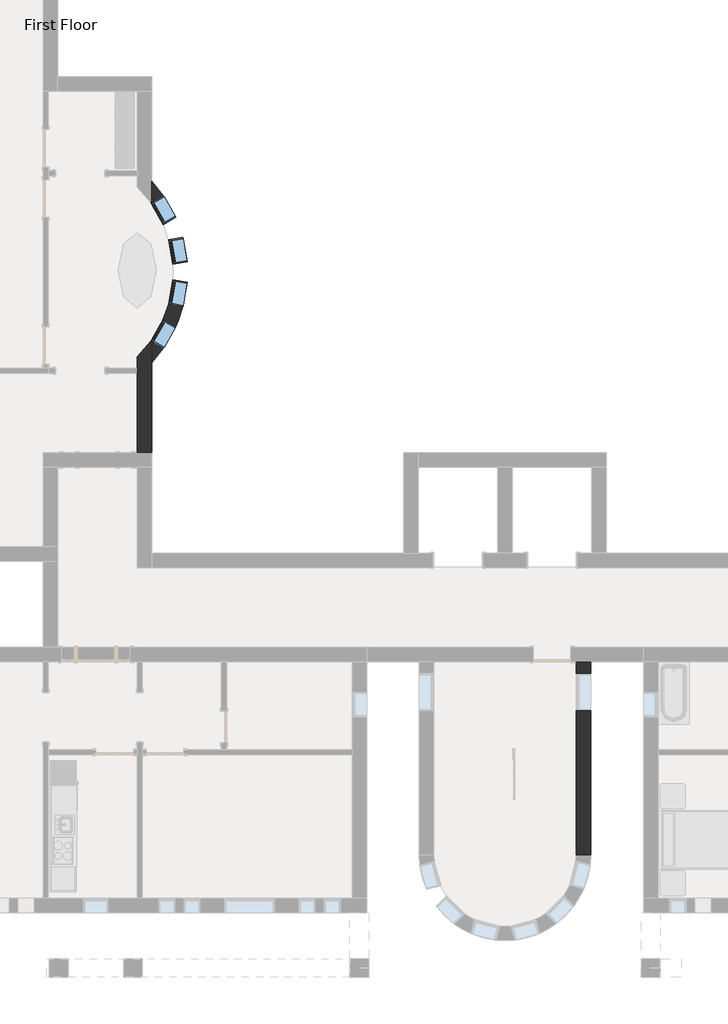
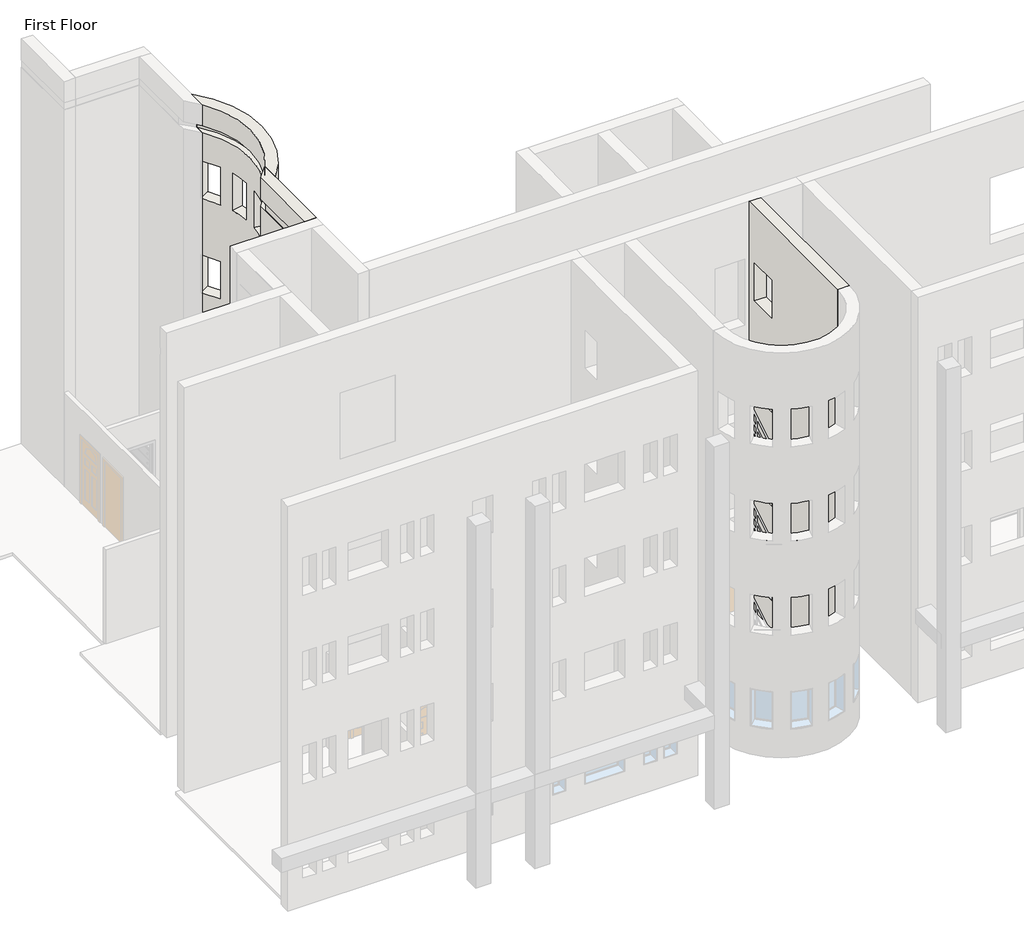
# One storey, part 5 of 24: 4 windows, 3 walls.
"""IFC4 building model written with IfcOpenShell, lengths in millimetres."""

from ifc_helpers import new_model, si_unit, frame, origin, place, context, project, spatial, polyline, circle_curve, outline, extrude, transform, mapped, element, save
from ifc_brep_helpers import plane_surface, cylinder_surface, revolved_surface, advanced_brep
from components import window_60baf983, window_ed80354a

model = new_model("IFC4")

# Units and contexts
model_context = context("Model", 3, world=origin())
ifc_project = project(units=[si_unit("LENGTHUNIT", "METRE", prefix="MILLI")], contexts=[model_context])

# Site, building, storey
site = spatial("IfcSite", under=ifc_project)
building = spatial("IfcBuilding", under=site)
storey = spatial("IfcBuildingStorey", under=building, Name="First Floor", Elevation=0.0)

# Walls
placement = place(None, origin())
element("IfcWall", 1, ObjectType="Exterior - Brick on Mtl. Stud", at=placement, inside=storey, context=model_context, shape_type="SweptSolid", body=[
    extrude(outline(polyline([(-28134.7808133, 0.0), (-32835.3683133, 0.0), (-32835.3683133, 13106.4), (-28134.7808133, 13106.4), (-28134.7808133, 0.0)]), holes=[polyline([(-29330.1683133, 2133.6), (-29330.1683133, 914.4), (-28415.7683133, 914.4), (-28415.7683133, 2133.6), (-29330.1683133, 2133.6)]), polyline([(-29330.1683133, 11277.6), (-29330.1683133, 10058.4), (-28415.7683133, 10058.4), (-28415.7683133, 11277.6), (-29330.1683133, 11277.6)]), polyline([(-29330.1683133, 5181.6), (-29330.1683133, 3962.4), (-28415.7683133, 3962.4), (-28415.7683133, 5181.6), (-29330.1683133, 5181.6)]), polyline([(-29330.1683133, 8229.6), (-29330.1683133, 7010.4), (-28415.7683133, 7010.4), (-28415.7683133, 8229.6), (-29330.1683133, 8229.6)])]), frame((-13206.3839563, 0.0, 0.0), z_axis=(1.0, 0.0, 0.0), x_axis=(0.0, 1.0, 0.0)), (0.0, 0.0, 1.0), 352.425),
])
element("IfcWall", 2, ObjectType="Exterior - Brick on Mtl. Stud", at=placement, inside=storey, context=model_context, shape_type="AdvancedBrep", body=[
    advanced_brep(
    [(-23521.9589563, -23057.9558133, 0.0), (-23521.9589563, -20866.5535473, 0.0), (-23521.9589563, -20308.6589631, 0.0), (-23521.9589563, -20308.6589631, 914.4), (-23521.9589563, -20357.947211, 914.4), (-23521.9589563, -20357.947211, 2133.6), (-23521.9589563, -20308.6589631, 2133.6), (-23521.9589563, -20308.6589631, 3962.4), (-23521.9589563, -20357.947211, 3962.4), (-23521.9589563, -20357.947211, 5181.6), (-23521.9589563, -20308.6589631, 5181.6), (-23521.9589563, -20308.6589631, 7010.4), (-23521.9589563, -20357.947211, 7010.4), (-23521.9589563, -20357.947211, 8229.6), (-23521.9589563, -20308.6589631, 8229.6), (-23521.9589563, -20308.6589631, 10058.4), (-23521.9589563, -20357.947211, 10058.4), (-23521.9589563, -20357.947211, 11277.6), (-23521.9589563, -20308.6589631, 11277.6), (-23521.9589563, -20308.6589631, 12192.0), (-23521.9589563, -20617.1458841, 12192.0), (-23521.9589563, -20617.1458841, 12420.6), (-23521.9589563, -20308.6589631, 12420.6), (-23521.9589563, -20308.6589631, 13106.4), (-23521.9589563, -20866.5535473, 13106.4), (-23521.9589563, -23057.9558133, 13106.4), (-23874.3839563, -20722.552661, 0.0), (-23874.3839563, -20997.3808133, 0.0), (-23874.3839563, -21124.3808133, 0.0), (-23874.3839563, -23057.9558133, 0.0), (-23874.3839563, -23057.9558133, 12192.0), (-23874.3839563, -21124.3808133, 12192.0), (-23874.3839563, -20997.3808133, 12192.0), (-23874.3839563, -20722.552661, 12192.0), (-23874.3839563, -23057.9558133, 13106.4), (-23874.3839563, -20722.552661, 13106.4), (-23874.3839563, -20722.552661, 12420.6), (-23874.3839563, -23057.9558133, 12420.6), (-23527.428547, -20316.4477821, 11277.6), (-23527.428547, -20316.4477821, 10058.4), (-23527.428547, -20316.4477821, 8229.6), (-23527.428547, -20316.4477821, 7010.4), (-23527.428547, -20316.4477821, 5181.6), (-23527.428547, -20316.4477821, 3962.4), (-23527.428547, -20316.4477821, 2133.6), (-23527.428547, -20316.4477821, 914.4), (-23861.6839563, -23057.9558133, 12420.6), (-23861.6839563, -23057.9558133, 12192.0), (-23543.9598455, -20345.3735215, 2133.6), (-23543.9598455, -20345.3735215, 914.4), (-23543.9598455, -20345.3735215, 11277.6), (-23543.9598455, -20345.3735215, 10058.4), (-23543.9598455, -20345.3735215, 5181.6), (-23543.9598455, -20345.3735215, 3962.4), (-23543.9598455, -20345.3735215, 8229.6), (-23543.9598455, -20345.3735215, 7010.4), (-23861.6839563, -20965.4736866, 12192.0), (-23861.6839563, -20965.4736866, 12420.6)],
    [
        (0, 1),
        (1, 2),
        (2, 3),
        (3, 4),
        (4, 5),
        (5, 6),
        (6, 7),
        (7, 8),
        (8, 9),
        (9, 10),
        (10, 11),
        (11, 12),
        (12, 13),
        (13, 14),
        (14, 15),
        (15, 16),
        (16, 17),
        (17, 18),
        (18, 19),
        (19, 20),
        (20, 21),
        (21, 22),
        (22, 23),
        (23, 24),
        (24, 25),
        (25, 0),
        (26, 27),
        (27, 28),
        (28, 29),
        (29, 30),
        (30, 31),
        (31, 32),
        (32, 33),
        (33, 26),
        (34, 35),
        (35, 36),
        (36, 37),
        (37, 34),
        (0, 29),
        (26, 2, circle_curve(frame((-25874.8788413, -18662.1683133, 0.0), z_axis=(0.0, 0.0, 1.0), x_axis=(0.0, -1.0, 0.0)), 2871.7875)),
        (23, 35, circle_curve(frame((-25874.8788413, -18662.1683133, 13106.4), z_axis=(0.0, 0.0, -1.0), x_axis=(0.0, -1.0, 0.0)), 2871.7875)),
        (34, 25),
        (33, 19, circle_curve(frame((-25874.8788413, -18662.1683133, 12192.0), z_axis=(0.0, 0.0, 1.0), x_axis=(0.0, -1.0, 0.0)), 2871.7875)),
        (18, 38, circle_curve(frame((-25874.8788413, -18662.1683133, 11277.6), z_axis=(0.0, 0.0, -1.0), x_axis=(0.0, -1.0, 0.0)), 2871.7875)),
        (38, 39),
        (39, 15, circle_curve(frame((-25874.8788413, -18662.1683133, 10058.4), z_axis=(0.0, 0.0, 1.0), x_axis=(0.0, -1.0, 0.0)), 2871.7875)),
        (14, 40, circle_curve(frame((-25874.8788413, -18662.1683133, 8229.6), z_axis=(0.0, 0.0, -1.0), x_axis=(0.0, -1.0, 0.0)), 2871.7875)),
        (40, 41),
        (41, 11, circle_curve(frame((-25874.8788413, -18662.1683133, 7010.4), z_axis=(0.0, 0.0, 1.0), x_axis=(0.0, -1.0, 0.0)), 2871.7875)),
        (10, 42, circle_curve(frame((-25874.8788413, -18662.1683133, 5181.6), z_axis=(0.0, 0.0, -1.0), x_axis=(0.0, -1.0, 0.0)), 2871.7875)),
        (42, 43),
        (43, 7, circle_curve(frame((-25874.8788413, -18662.1683133, 3962.4), z_axis=(0.0, 0.0, 1.0), x_axis=(0.0, -1.0, 0.0)), 2871.7875)),
        (6, 44, circle_curve(frame((-25874.8788413, -18662.1683133, 2133.6), z_axis=(0.0, 0.0, -1.0), x_axis=(0.0, -1.0, 0.0)), 2871.7875)),
        (44, 45),
        (45, 3, circle_curve(frame((-25874.8788413, -18662.1683133, 914.4), z_axis=(0.0, 0.0, 1.0), x_axis=(0.0, -1.0, 0.0)), 2871.7875)),
        (22, 36, circle_curve(frame((-25874.8788413, -18662.1683133, 12420.6), z_axis=(0.0, 0.0, -1.0), x_axis=(0.0, -1.0, 0.0)), 2871.7875)),
        (37, 46),
        (46, 47),
        (47, 30),
        (48, 49),
        (49, 45),
        (44, 48),
        (49, 4),
        (48, 5),
        (50, 51),
        (51, 39),
        (38, 50),
        (51, 16),
        (50, 17),
        (52, 53),
        (53, 43),
        (42, 52),
        (53, 8),
        (52, 9),
        (54, 55),
        (55, 41),
        (40, 54),
        (55, 12),
        (54, 13),
        (47, 56),
        (56, 20, circle_curve(frame((-25874.8788413, -18662.1683133, 12192.0), z_axis=(0.0, 0.0, 1.0), x_axis=(0.0, -1.0, 0.0)), 3059.1125)),
        (21, 57, circle_curve(frame((-25874.8788413, -18662.1683133, 12420.6), z_axis=(0.0, 0.0, -1.0), x_axis=(0.0, -1.0, 0.0)), 3059.1125)),
        (57, 46),
        (57, 56),
    ],
    [
        plane_surface(frame((-23521.9589563, -23234.1683133, 0.0), z_axis=(1.0, 0.0, 0.0), x_axis=(0.0, 1.0, 0.0))),
        plane_surface(frame((-23874.3839563, -23234.1683133, 0.0), z_axis=(-1.0, 0.0, 0.0), x_axis=(0.0, -1.0, 0.0))),
        plane_surface(frame((-23521.9589563, -23234.1683133, 0.0), z_axis=(0.0, 0.0, -1.0), x_axis=(-1.0, 0.0, 0.0))),
        plane_surface(frame((-23521.9589563, -20795.7683133, 13106.4), z_axis=(0.0, 0.0, 1.0), x_axis=(-1.0, 0.0, 0.0))),
        revolved_surface(polyline([(-25874.8788413, -21533.9558133, 0.0), (-25874.8788413, -21533.9558133, 12192.0)]), (-25874.8788413, -18662.1683133, 0.0), (0.0, 0.0, -1.0)),
        revolved_surface(polyline([(-25874.8788413, -21533.9558133, 12420.6), (-25874.8788413, -21533.9558133, 13106.4)]), (-25874.8788413, -18662.1683133, 0.0), (0.0, 0.0, -1.0)),
        plane_surface(frame((-25984.1714563, -23057.9558133, 0.0), z_axis=(0.0, -1.0, 0.0), x_axis=(-1.0, 0.0, 0.0))),
        plane_surface(frame((-23241.4817613, -19816.1106675, 2133.6), z_axis=(0.8682133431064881, -0.49619108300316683, 0.0), x_axis=(0.0, 0.0, -1.0))),
        plane_surface(frame((-23241.4817613, -19816.1106675, 914.4), z_axis=(0.0, 0.0, 1.0), x_axis=(0.8682133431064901, -0.49619108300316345, 0.0))),
        plane_surface(frame((-23543.9598455, -20345.3735215, 914.4), z_axis=(0.49619108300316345, 0.8682133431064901, 0.0), x_axis=(0.8682133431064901, -0.49619108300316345, 0.0))),
        plane_surface(frame((-23543.9598455, -20345.3735215, 2133.6), z_axis=(0.0, 0.0, -1.0), x_axis=(0.8682133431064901, -0.49619108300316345, 0.0))),
        plane_surface(frame((-23241.4817613, -19816.1106675, 11277.6), z_axis=(0.8682133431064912, -0.4961910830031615, 0.0), x_axis=(0.0, 0.0, -1.0))),
        plane_surface(frame((-23241.4817613, -19816.1106675, 10058.4), z_axis=(0.0, 0.0, 1.0), x_axis=(0.8682133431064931, -0.4961910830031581, 0.0))),
        plane_surface(frame((-23543.9598455, -20345.3735215, 10058.4), z_axis=(0.4961910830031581, 0.8682133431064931, 0.0), x_axis=(0.8682133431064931, -0.4961910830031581, 0.0))),
        plane_surface(frame((-23543.9598455, -20345.3735215, 11277.6), z_axis=(0.0, 0.0, -1.0), x_axis=(0.8682133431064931, -0.4961910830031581, 0.0))),
        plane_surface(frame((-23241.4817613, -19816.1106675, 5181.6), z_axis=(0.8682133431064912, -0.4961910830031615, 0.0), x_axis=(0.0, 0.0, -1.0))),
        plane_surface(frame((-23241.4817613, -19816.1106675, 3962.4), z_axis=(0.0, 0.0, 1.0), x_axis=(0.8682133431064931, -0.4961910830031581, 0.0))),
        plane_surface(frame((-23543.9598455, -20345.3735215, 3962.4), z_axis=(0.4961910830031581, 0.8682133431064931, 0.0), x_axis=(0.8682133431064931, -0.4961910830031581, 0.0))),
        plane_surface(frame((-23543.9598455, -20345.3735215, 5181.6), z_axis=(0.0, 0.0, -1.0), x_axis=(0.8682133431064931, -0.4961910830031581, 0.0))),
        plane_surface(frame((-23241.4817613, -19816.1106675, 8229.6), z_axis=(0.8682133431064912, -0.4961910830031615, 0.0), x_axis=(0.0, 0.0, -1.0))),
        plane_surface(frame((-23241.4817613, -19816.1106675, 7010.4), z_axis=(0.0, 0.0, 1.0), x_axis=(0.8682133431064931, -0.4961910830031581, 0.0))),
        plane_surface(frame((-23543.9598455, -20345.3735215, 7010.4), z_axis=(0.4961910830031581, 0.8682133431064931, 0.0), x_axis=(0.8682133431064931, -0.4961910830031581, 0.0))),
        plane_surface(frame((-23543.9598455, -20345.3735215, 8229.6), z_axis=(0.0, 0.0, -1.0), x_axis=(0.8682133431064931, -0.4961910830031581, 0.0))),
        plane_surface(frame((-29630.6589563, -11967.6808133, 12192.0), z_axis=(0.0, 0.0, 1.0), x_axis=(1.0, 0.0, 0.0))),
        plane_surface(frame((-29630.6589563, -11967.6808133, 12420.6), z_axis=(0.0, 0.0, -1.0), x_axis=(1.0, 0.0, 0.0))),
        plane_surface(frame((-23861.6839563, -23070.6558133, 12192.0), z_axis=(-1.0, 0.0, 0.0), x_axis=(0.0, 1.0, 0.0))),
        revolved_surface(polyline([(-25874.8788413, -21721.2808133, 12420.6), (-25874.8788413, -21721.2808133, 12192.0)]), (-25874.8788413, -18662.1683133, 12192.0), (0.0, 0.0, 1.0)),
    ],
    [
        (0, [[1, 2, 3, 4, 5, 6, 7, 8, 9, 10, 11, 12, 13, 14, 15, 16, 17, 18, 19, 20, 21, 22, 23, 24, 25, 26]]),
        (1, [[27, 28, 29, 30, 31, 32, 33, 34]]),
        (1, [[35, 36, 37, 38]]),
        (2, [[-2, -1, 39, -29, -28, -27, 40]]),
        (3, [[-25, -24, 41, -35, 42]]),
        (4, [[-40, -34, 43, -19, 44, 45, 46, -15, 47, 48, 49, -11, 50, 51, 52, -7, 53, 54, 55, -3]]),
        (5, [[-41, -23, 56, -36]]),
        (6, [[-26, -42, -38, 57, 58, 59, -30, -39]]),
        (7, [[60, 61, -54, 62]]),
        (8, [[63, -4, -55, -61]]),
        (9, [[-60, 64, -5, -63]]),
        (10, [[-64, -62, -53, -6]]),
        (11, [[65, 66, -45, 67]]),
        (12, [[68, -16, -46, -66]]),
        (13, [[-65, 69, -17, -68]]),
        (14, [[-69, -67, -44, -18]]),
        (15, [[70, 71, -51, 72]]),
        (16, [[73, -8, -52, -71]]),
        (17, [[-70, 74, -9, -73]]),
        (18, [[-74, -72, -50, -10]]),
        (19, [[75, 76, -48, 77]]),
        (20, [[78, -12, -49, -76]]),
        (21, [[-75, 79, -13, -78]]),
        (22, [[-79, -77, -47, -14]]),
        (23, [[80, 81, -20, -43, -33, -32, -31, -59]]),
        (24, [[82, 83, -57, -37, -56, -22]]),
        (25, [[84, -80, -58, -83]]),
        (26, [[-84, -82, -21, -81]]),
    ],
),
])
element("IfcWall", 3, ObjectType="Exterior - Brick on Mtl. Stud", at=placement, inside=storey, context=model_context, shape_type="AdvancedBrep", body=[
    advanced_brep(
    [(-23521.9589563, -20866.5535473, 13106.4), (-23521.9589563, -16457.7830793, 13106.4), (-23521.9589563, -17015.6776635, 13106.4), (-23521.9589563, -20308.6589631, 13106.4), (-23521.9589563, -16457.7830793, 0.0), (-23521.9589563, -20866.5535473, 0.0), (-23521.9589563, -20308.6589631, 0.0), (-23521.9589563, -17015.6776635, 0.0), (-22936.8719855, -17334.1389611, 914.4), (-22936.8719855, -17334.1389611, 2133.6), (-23239.3500697, -16804.8761071, 2133.6), (-23239.3500697, -16804.8761071, 914.4), (-22936.8719855, -19990.1976656, 2133.6), (-22936.8719855, -19990.1976656, 914.4), (-23239.3500697, -20519.4605195, 914.4), (-23239.3500697, -20519.4605195, 2133.6), (-22936.8719855, -17334.1389611, 10058.4), (-22936.8719855, -17334.1389611, 11277.6), (-23239.3500697, -16804.8761071, 11277.6), (-23239.3500697, -16804.8761071, 10058.4), (-22936.8719855, -19990.1976656, 11277.6), (-22936.8719855, -19990.1976656, 10058.4), (-23239.3500697, -20519.4605195, 10058.4), (-23239.3500697, -20519.4605195, 11277.6), (-22936.8719855, -17334.1389611, 3962.4), (-22936.8719855, -17334.1389611, 5181.6), (-23239.3500697, -16804.8761071, 5181.6), (-23239.3500697, -16804.8761071, 3962.4), (-22936.8719855, -19990.1976656, 5181.6), (-22936.8719855, -19990.1976656, 3962.4), (-23239.3500697, -20519.4605195, 3962.4), (-23239.3500697, -20519.4605195, 5181.6), (-22936.8719855, -17334.1389611, 7010.4), (-22936.8719855, -17334.1389611, 8229.6), (-23239.3500697, -16804.8761071, 8229.6), (-23239.3500697, -16804.8761071, 7010.4), (-22936.8719855, -19990.1976656, 8229.6), (-22936.8719855, -19990.1976656, 7010.4), (-23239.3500697, -20519.4605195, 7010.4), (-23239.3500697, -20519.4605195, 8229.6), (-22659.9445035, -18906.5930431, 8229.6), (-22659.9445035, -18906.5930431, 7010.4), (-22763.4133094, -19507.3478734, 7010.4), (-22763.4133094, -19507.3478734, 8229.6), (-22659.9445035, -18417.7435836, 7010.4), (-22659.9445035, -18417.7435836, 8229.6), (-22763.4133094, -17816.9887532, 8229.6), (-22763.4133094, -17816.9887532, 7010.4), (-22659.9445035, -18906.5930431, 5181.6), (-22659.9445035, -18906.5930431, 3962.4), (-22763.4133094, -19507.3478734, 3962.4), (-22763.4133094, -19507.3478734, 5181.6), (-22659.9445035, -18417.7435836, 3962.4), (-22659.9445035, -18417.7435836, 5181.6), (-22763.4133094, -17816.9887532, 5181.6), (-22763.4133094, -17816.9887532, 3962.4), (-22659.9445035, -18906.5930431, 11277.6), (-22659.9445035, -18906.5930431, 10058.4), (-22763.4133094, -19507.3478734, 10058.4), (-22763.4133094, -19507.3478734, 11277.6), (-22659.9445035, -18417.7435836, 10058.4), (-22659.9445035, -18417.7435836, 11277.6), (-22763.4133094, -17816.9887532, 11277.6), (-22763.4133094, -17816.9887532, 10058.4), (-22659.9445035, -18906.5930431, 2133.6), (-22659.9445035, -18906.5930431, 914.4), (-22763.4133094, -19507.3478734, 914.4), (-22763.4133094, -19507.3478734, 2133.6), (-22659.9445035, -18417.7435836, 914.4), (-22659.9445035, -18417.7435836, 2133.6), (-22763.4133094, -17816.9887532, 2133.6), (-22763.4133094, -17816.9887532, 914.4), (-23521.9589563, -17015.6776635, 12420.6), (-23521.9589563, -20308.6589631, 12420.6), (-23521.9589563, -20308.6589631, 914.4), (-23244.3988057, -19814.4435526, 914.4), (-23244.3988057, -19814.4435526, 2133.6), (-23521.9589563, -20308.6589631, 2133.6), (-23521.9589563, -20308.6589631, 3962.4), (-23244.3988057, -19814.4435526, 3962.4), (-23244.3988057, -19814.4435526, 5181.6), (-23521.9589563, -20308.6589631, 5181.6), (-23521.9589563, -20308.6589631, 7010.4), (-23244.3988057, -19814.4435526, 7010.4), (-23244.3988057, -19814.4435526, 8229.6), (-23521.9589563, -20308.6589631, 8229.6), (-23521.9589563, -20308.6589631, 10058.4), (-23244.3988057, -19814.4435526, 10058.4), (-23244.3988057, -19814.4435526, 11277.6), (-23521.9589563, -20308.6589631, 11277.6), (-23521.9589563, -20308.6589631, 12192.0), (-23521.9589563, -17015.6776635, 12192.0), (-23521.9589563, -17015.6776635, 11277.6), (-23244.3988057, -17509.893074, 11277.6), (-23244.3988057, -17509.893074, 10058.4), (-23521.9589563, -17015.6776635, 10058.4), (-23521.9589563, -17015.6776635, 8229.6), (-23244.3988057, -17509.893074, 8229.6), (-23244.3988057, -17509.893074, 7010.4), (-23521.9589563, -17015.6776635, 7010.4), (-23521.9589563, -17015.6776635, 5181.6), (-23244.3988057, -17509.893074, 5181.6), (-23244.3988057, -17509.893074, 3962.4), (-23521.9589563, -17015.6776635, 3962.4), (-23521.9589563, -17015.6776635, 2133.6), (-23244.3988057, -17509.893074, 2133.6), (-23244.3988057, -17509.893074, 914.4), (-23521.9589563, -17015.6776635, 914.4), (-23009.0115527, -18846.4727595, 7010.4), (-23009.0115527, -18846.4727595, 8229.6), (-23112.4803586, -19447.2275899, 8229.6), (-23112.4803586, -19447.2275899, 7010.4), (-23009.0115527, -18477.8638671, 8229.6), (-23009.0115527, -18477.8638671, 7010.4), (-23112.4803586, -17877.1090368, 7010.4), (-23112.4803586, -17877.1090368, 8229.6), (-23009.0115527, -18846.4727595, 3962.4), (-23009.0115527, -18846.4727595, 5181.6), (-23112.4803586, -19447.2275899, 5181.6), (-23112.4803586, -19447.2275899, 3962.4), (-23009.0115527, -18477.8638671, 5181.6), (-23009.0115527, -18477.8638671, 3962.4), (-23112.4803586, -17877.1090368, 3962.4), (-23112.4803586, -17877.1090368, 5181.6), (-23009.0115527, -18846.4727595, 10058.4), (-23009.0115527, -18846.4727595, 11277.6), (-23112.4803586, -19447.2275899, 11277.6), (-23112.4803586, -19447.2275899, 10058.4), (-23009.0115527, -18477.8638671, 11277.6), (-23009.0115527, -18477.8638671, 10058.4), (-23112.4803586, -17877.1090368, 10058.4), (-23112.4803586, -17877.1090368, 11277.6), (-23009.0115527, -18846.4727595, 914.4), (-23009.0115527, -18846.4727595, 2133.6), (-23112.4803586, -19447.2275899, 2133.6), (-23112.4803586, -19447.2275899, 914.4), (-23009.0115527, -18477.8638671, 2133.6), (-23009.0115527, -18477.8638671, 914.4), (-23112.4803586, -17877.1090368, 914.4), (-23112.4803586, -17877.1090368, 2133.6), (-23521.9589563, -20617.1458841, 12420.6), (-23521.9589563, -20617.1458841, 12192.0), (-23521.9589563, -20357.947211, 11277.6), (-23521.9589563, -20357.947211, 10058.4), (-23521.9589563, -20357.947211, 8229.6), (-23521.9589563, -20357.947211, 7010.4), (-23521.9589563, -20357.947211, 5181.6), (-23521.9589563, -20357.947211, 3962.4), (-23521.9589563, -20357.947211, 2133.6), (-23521.9589563, -20357.947211, 914.4), (-23521.9589563, -16966.3894156, 914.4), (-23521.9589563, -16966.3894156, 2133.6), (-23521.9589563, -16966.3894156, 3962.4), (-23521.9589563, -16966.3894156, 5181.6), (-23521.9589563, -16966.3894156, 7010.4), (-23521.9589563, -16966.3894156, 8229.6), (-23521.9589563, -16966.3894156, 10058.4), (-23521.9589563, -16966.3894156, 11277.6), (-23521.9589563, -16707.1907425, 12192.0), (-23521.9589563, -16707.1907425, 12420.6)],
    [
        (0, 1, circle_curve(frame((-25874.8788413, -18662.1683133, 13106.4), z_axis=(0.0, 0.0, 1.0), x_axis=(0.0, -1.0, 0.0)), 3224.2125)),
        (1, 2),
        (2, 3, circle_curve(frame((-25874.8788413, -18662.1683133, 13106.4), z_axis=(0.0, 0.0, -1.0), x_axis=(0.0, -1.0, 0.0)), 2871.7875)),
        (3, 0),
        (4, 5, circle_curve(frame((-25874.8788413, -18662.1683133, 0.0), z_axis=(0.0, 0.0, -1.0), x_axis=(0.0, -1.0, 0.0)), 3224.2125)),
        (5, 6),
        (6, 7, circle_curve(frame((-25874.8788413, -18662.1683133, 0.0), z_axis=(0.0, 0.0, 1.0), x_axis=(0.0, -1.0, 0.0)), 2871.7875)),
        (7, 4),
        (0, 5),
        (4, 1),
        (8, 9),
        (9, 10, circle_curve(frame((-25874.8788413, -18662.1683133, 2133.6), z_axis=(0.0, 0.0, 1.0), x_axis=(0.0, -1.0, 0.0)), 3224.2125)),
        (10, 11),
        (11, 8, circle_curve(frame((-25874.8788413, -18662.1683133, 914.4), z_axis=(0.0, 0.0, -1.0), x_axis=(0.0, -1.0, 0.0)), 3224.2125)),
        (12, 13),
        (13, 14, circle_curve(frame((-25874.8788413, -18662.1683133, 914.4), z_axis=(0.0, 0.0, -1.0), x_axis=(0.0, -1.0, 0.0)), 3224.2125)),
        (14, 15),
        (15, 12, circle_curve(frame((-25874.8788413, -18662.1683133, 2133.6), z_axis=(0.0, 0.0, 1.0), x_axis=(0.0, -1.0, 0.0)), 3224.2125)),
        (16, 17),
        (17, 18, circle_curve(frame((-25874.8788413, -18662.1683133, 11277.6), z_axis=(0.0, 0.0, 1.0), x_axis=(0.0, -1.0, 0.0)), 3224.2125)),
        (18, 19),
        (19, 16, circle_curve(frame((-25874.8788413, -18662.1683133, 10058.4), z_axis=(0.0, 0.0, -1.0), x_axis=(0.0, -1.0, 0.0)), 3224.2125)),
        (20, 21),
        (21, 22, circle_curve(frame((-25874.8788413, -18662.1683133, 10058.4), z_axis=(0.0, 0.0, -1.0), x_axis=(0.0, -1.0, 0.0)), 3224.2125)),
        (22, 23),
        (23, 20, circle_curve(frame((-25874.8788413, -18662.1683133, 11277.6), z_axis=(0.0, 0.0, 1.0), x_axis=(0.0, -1.0, 0.0)), 3224.2125)),
        (24, 25),
        (25, 26, circle_curve(frame((-25874.8788413, -18662.1683133, 5181.6), z_axis=(0.0, 0.0, 1.0), x_axis=(0.0, -1.0, 0.0)), 3224.2125)),
        (26, 27),
        (27, 24, circle_curve(frame((-25874.8788413, -18662.1683133, 3962.4), z_axis=(0.0, 0.0, -1.0), x_axis=(0.0, -1.0, 0.0)), 3224.2125)),
        (28, 29),
        (29, 30, circle_curve(frame((-25874.8788413, -18662.1683133, 3962.4), z_axis=(0.0, 0.0, -1.0), x_axis=(0.0, -1.0, 0.0)), 3224.2125)),
        (30, 31),
        (31, 28, circle_curve(frame((-25874.8788413, -18662.1683133, 5181.6), z_axis=(0.0, 0.0, 1.0), x_axis=(0.0, -1.0, 0.0)), 3224.2125)),
        (32, 33),
        (33, 34, circle_curve(frame((-25874.8788413, -18662.1683133, 8229.6), z_axis=(0.0, 0.0, 1.0), x_axis=(0.0, -1.0, 0.0)), 3224.2125)),
        (34, 35),
        (35, 32, circle_curve(frame((-25874.8788413, -18662.1683133, 7010.4), z_axis=(0.0, 0.0, -1.0), x_axis=(0.0, -1.0, 0.0)), 3224.2125)),
        (36, 37),
        (37, 38, circle_curve(frame((-25874.8788413, -18662.1683133, 7010.4), z_axis=(0.0, 0.0, -1.0), x_axis=(0.0, -1.0, 0.0)), 3224.2125)),
        (38, 39),
        (39, 36, circle_curve(frame((-25874.8788413, -18662.1683133, 8229.6), z_axis=(0.0, 0.0, 1.0), x_axis=(0.0, -1.0, 0.0)), 3224.2125)),
        (40, 41),
        (41, 42, circle_curve(frame((-25874.8788413, -18662.1683133, 7010.4), z_axis=(0.0, 0.0, -1.0), x_axis=(0.0, -1.0, 0.0)), 3224.2125)),
        (42, 43),
        (43, 40, circle_curve(frame((-25874.8788413, -18662.1683133, 8229.6), z_axis=(0.0, 0.0, 1.0), x_axis=(0.0, -1.0, 0.0)), 3224.2125)),
        (44, 45),
        (45, 46, circle_curve(frame((-25874.8788413, -18662.1683133, 8229.6), z_axis=(0.0, 0.0, 1.0), x_axis=(0.0, -1.0, 0.0)), 3224.2125)),
        (46, 47),
        (47, 44, circle_curve(frame((-25874.8788413, -18662.1683133, 7010.4), z_axis=(0.0, 0.0, -1.0), x_axis=(0.0, -1.0, 0.0)), 3224.2125)),
        (48, 49),
        (49, 50, circle_curve(frame((-25874.8788413, -18662.1683133, 3962.4), z_axis=(0.0, 0.0, -1.0), x_axis=(0.0, -1.0, 0.0)), 3224.2125)),
        (50, 51),
        (51, 48, circle_curve(frame((-25874.8788413, -18662.1683133, 5181.6), z_axis=(0.0, 0.0, 1.0), x_axis=(0.0, -1.0, 0.0)), 3224.2125)),
        (52, 53),
        (53, 54, circle_curve(frame((-25874.8788413, -18662.1683133, 5181.6), z_axis=(0.0, 0.0, 1.0), x_axis=(0.0, -1.0, 0.0)), 3224.2125)),
        (54, 55),
        (55, 52, circle_curve(frame((-25874.8788413, -18662.1683133, 3962.4), z_axis=(0.0, 0.0, -1.0), x_axis=(0.0, -1.0, 0.0)), 3224.2125)),
        (56, 57),
        (57, 58, circle_curve(frame((-25874.8788413, -18662.1683133, 10058.4), z_axis=(0.0, 0.0, -1.0), x_axis=(0.0, -1.0, 0.0)), 3224.2125)),
        (58, 59),
        (59, 56, circle_curve(frame((-25874.8788413, -18662.1683133, 11277.6), z_axis=(0.0, 0.0, 1.0), x_axis=(0.0, -1.0, 0.0)), 3224.2125)),
        (60, 61),
        (61, 62, circle_curve(frame((-25874.8788413, -18662.1683133, 11277.6), z_axis=(0.0, 0.0, 1.0), x_axis=(0.0, -1.0, 0.0)), 3224.2125)),
        (62, 63),
        (63, 60, circle_curve(frame((-25874.8788413, -18662.1683133, 10058.4), z_axis=(0.0, 0.0, -1.0), x_axis=(0.0, -1.0, 0.0)), 3224.2125)),
        (64, 65),
        (65, 66, circle_curve(frame((-25874.8788413, -18662.1683133, 914.4), z_axis=(0.0, 0.0, -1.0), x_axis=(0.0, -1.0, 0.0)), 3224.2125)),
        (66, 67),
        (67, 64, circle_curve(frame((-25874.8788413, -18662.1683133, 2133.6), z_axis=(0.0, 0.0, 1.0), x_axis=(0.0, -1.0, 0.0)), 3224.2125)),
        (68, 69),
        (69, 70, circle_curve(frame((-25874.8788413, -18662.1683133, 2133.6), z_axis=(0.0, 0.0, 1.0), x_axis=(0.0, -1.0, 0.0)), 3224.2125)),
        (70, 71),
        (71, 68, circle_curve(frame((-25874.8788413, -18662.1683133, 914.4), z_axis=(0.0, 0.0, -1.0), x_axis=(0.0, -1.0, 0.0)), 3224.2125)),
        (2, 72),
        (72, 73, circle_curve(frame((-25874.8788413, -18662.1683133, 12420.6), z_axis=(0.0, 0.0, -1.0), x_axis=(0.0, -1.0, 0.0)), 2871.7875)),
        (73, 3),
        (6, 74),
        (74, 75, circle_curve(frame((-25874.8788413, -18662.1683133, 914.4), z_axis=(0.0, 0.0, 1.0), x_axis=(0.0, -1.0, 0.0)), 2871.7875)),
        (75, 76),
        (76, 77, circle_curve(frame((-25874.8788413, -18662.1683133, 2133.6), z_axis=(0.0, 0.0, -1.0), x_axis=(0.0, -1.0, 0.0)), 2871.7875)),
        (77, 78),
        (78, 79, circle_curve(frame((-25874.8788413, -18662.1683133, 3962.4), z_axis=(0.0, 0.0, 1.0), x_axis=(0.0, -1.0, 0.0)), 2871.7875)),
        (79, 80),
        (80, 81, circle_curve(frame((-25874.8788413, -18662.1683133, 5181.6), z_axis=(0.0, 0.0, -1.0), x_axis=(0.0, -1.0, 0.0)), 2871.7875)),
        (81, 82),
        (82, 83, circle_curve(frame((-25874.8788413, -18662.1683133, 7010.4), z_axis=(0.0, 0.0, 1.0), x_axis=(0.0, -1.0, 0.0)), 2871.7875)),
        (83, 84),
        (84, 85, circle_curve(frame((-25874.8788413, -18662.1683133, 8229.6), z_axis=(0.0, 0.0, -1.0), x_axis=(0.0, -1.0, 0.0)), 2871.7875)),
        (85, 86),
        (86, 87, circle_curve(frame((-25874.8788413, -18662.1683133, 10058.4), z_axis=(0.0, 0.0, 1.0), x_axis=(0.0, -1.0, 0.0)), 2871.7875)),
        (87, 88),
        (88, 89, circle_curve(frame((-25874.8788413, -18662.1683133, 11277.6), z_axis=(0.0, 0.0, -1.0), x_axis=(0.0, -1.0, 0.0)), 2871.7875)),
        (89, 90),
        (90, 91, circle_curve(frame((-25874.8788413, -18662.1683133, 12192.0), z_axis=(0.0, 0.0, 1.0), x_axis=(0.0, -1.0, 0.0)), 2871.7875)),
        (91, 92),
        (92, 93, circle_curve(frame((-25874.8788413, -18662.1683133, 11277.6), z_axis=(0.0, 0.0, -1.0), x_axis=(0.0, -1.0, 0.0)), 2871.7875)),
        (93, 94),
        (94, 95, circle_curve(frame((-25874.8788413, -18662.1683133, 10058.4), z_axis=(0.0, 0.0, 1.0), x_axis=(0.0, -1.0, 0.0)), 2871.7875)),
        (95, 96),
        (96, 97, circle_curve(frame((-25874.8788413, -18662.1683133, 8229.6), z_axis=(0.0, 0.0, -1.0), x_axis=(0.0, -1.0, 0.0)), 2871.7875)),
        (97, 98),
        (98, 99, circle_curve(frame((-25874.8788413, -18662.1683133, 7010.4), z_axis=(0.0, 0.0, 1.0), x_axis=(0.0, -1.0, 0.0)), 2871.7875)),
        (99, 100),
        (100, 101, circle_curve(frame((-25874.8788413, -18662.1683133, 5181.6), z_axis=(0.0, 0.0, -1.0), x_axis=(0.0, -1.0, 0.0)), 2871.7875)),
        (101, 102),
        (102, 103, circle_curve(frame((-25874.8788413, -18662.1683133, 3962.4), z_axis=(0.0, 0.0, 1.0), x_axis=(0.0, -1.0, 0.0)), 2871.7875)),
        (103, 104),
        (104, 105, circle_curve(frame((-25874.8788413, -18662.1683133, 2133.6), z_axis=(0.0, 0.0, -1.0), x_axis=(0.0, -1.0, 0.0)), 2871.7875)),
        (105, 106),
        (106, 107, circle_curve(frame((-25874.8788413, -18662.1683133, 914.4), z_axis=(0.0, 0.0, 1.0), x_axis=(0.0, -1.0, 0.0)), 2871.7875)),
        (107, 7),
        (108, 109),
        (109, 110, circle_curve(frame((-25874.8788413, -18662.1683133, 8229.6), z_axis=(0.0, 0.0, -1.0), x_axis=(0.0, -1.0, 0.0)), 2871.7875)),
        (110, 111),
        (111, 108, circle_curve(frame((-25874.8788413, -18662.1683133, 7010.4), z_axis=(0.0, 0.0, 1.0), x_axis=(0.0, -1.0, 0.0)), 2871.7875)),
        (112, 113),
        (113, 114, circle_curve(frame((-25874.8788413, -18662.1683133, 7010.4), z_axis=(0.0, 0.0, 1.0), x_axis=(0.0, -1.0, 0.0)), 2871.7875)),
        (114, 115),
        (115, 112, circle_curve(frame((-25874.8788413, -18662.1683133, 8229.6), z_axis=(0.0, 0.0, -1.0), x_axis=(0.0, -1.0, 0.0)), 2871.7875)),
        (116, 117),
        (117, 118, circle_curve(frame((-25874.8788413, -18662.1683133, 5181.6), z_axis=(0.0, 0.0, -1.0), x_axis=(0.0, -1.0, 0.0)), 2871.7875)),
        (118, 119),
        (119, 116, circle_curve(frame((-25874.8788413, -18662.1683133, 3962.4), z_axis=(0.0, 0.0, 1.0), x_axis=(0.0, -1.0, 0.0)), 2871.7875)),
        (120, 121),
        (121, 122, circle_curve(frame((-25874.8788413, -18662.1683133, 3962.4), z_axis=(0.0, 0.0, 1.0), x_axis=(0.0, -1.0, 0.0)), 2871.7875)),
        (122, 123),
        (123, 120, circle_curve(frame((-25874.8788413, -18662.1683133, 5181.6), z_axis=(0.0, 0.0, -1.0), x_axis=(0.0, -1.0, 0.0)), 2871.7875)),
        (124, 125),
        (125, 126, circle_curve(frame((-25874.8788413, -18662.1683133, 11277.6), z_axis=(0.0, 0.0, -1.0), x_axis=(0.0, -1.0, 0.0)), 2871.7875)),
        (126, 127),
        (127, 124, circle_curve(frame((-25874.8788413, -18662.1683133, 10058.4), z_axis=(0.0, 0.0, 1.0), x_axis=(0.0, -1.0, 0.0)), 2871.7875)),
        (128, 129),
        (129, 130, circle_curve(frame((-25874.8788413, -18662.1683133, 10058.4), z_axis=(0.0, 0.0, 1.0), x_axis=(0.0, -1.0, 0.0)), 2871.7875)),
        (130, 131),
        (131, 128, circle_curve(frame((-25874.8788413, -18662.1683133, 11277.6), z_axis=(0.0, 0.0, -1.0), x_axis=(0.0, -1.0, 0.0)), 2871.7875)),
        (132, 133),
        (133, 134, circle_curve(frame((-25874.8788413, -18662.1683133, 2133.6), z_axis=(0.0, 0.0, -1.0), x_axis=(0.0, -1.0, 0.0)), 2871.7875)),
        (134, 135),
        (135, 132, circle_curve(frame((-25874.8788413, -18662.1683133, 914.4), z_axis=(0.0, 0.0, 1.0), x_axis=(0.0, -1.0, 0.0)), 2871.7875)),
        (136, 137),
        (137, 138, circle_curve(frame((-25874.8788413, -18662.1683133, 914.4), z_axis=(0.0, 0.0, 1.0), x_axis=(0.0, -1.0, 0.0)), 2871.7875)),
        (138, 139),
        (139, 136, circle_curve(frame((-25874.8788413, -18662.1683133, 2133.6), z_axis=(0.0, 0.0, -1.0), x_axis=(0.0, -1.0, 0.0)), 2871.7875)),
        (73, 140),
        (140, 141),
        (141, 90),
        (89, 142),
        (142, 143),
        (143, 86),
        (85, 144),
        (144, 145),
        (145, 82),
        (81, 146),
        (146, 147),
        (147, 78),
        (77, 148),
        (148, 149),
        (149, 74),
        (107, 150),
        (150, 151),
        (151, 104),
        (103, 152),
        (152, 153),
        (153, 100),
        (99, 154),
        (154, 155),
        (155, 96),
        (95, 156),
        (156, 157),
        (157, 92),
        (91, 158),
        (158, 159),
        (159, 72),
        (105, 9),
        (8, 106),
        (11, 150),
        (10, 151),
        (12, 76),
        (75, 13),
        (149, 14),
        (148, 15),
        (93, 17),
        (16, 94),
        (19, 156),
        (18, 157),
        (20, 88),
        (87, 21),
        (143, 22),
        (142, 23),
        (101, 25),
        (24, 102),
        (27, 152),
        (26, 153),
        (28, 80),
        (79, 29),
        (147, 30),
        (146, 31),
        (97, 33),
        (32, 98),
        (35, 154),
        (34, 155),
        (36, 84),
        (83, 37),
        (145, 38),
        (144, 39),
        (40, 109),
        (108, 41),
        (111, 42),
        (110, 43),
        (112, 45),
        (44, 113),
        (47, 114),
        (46, 115),
        (48, 117),
        (116, 49),
        (119, 50),
        (118, 51),
        (120, 53),
        (52, 121),
        (55, 122),
        (54, 123),
        (56, 125),
        (124, 57),
        (127, 58),
        (126, 59),
        (128, 61),
        (60, 129),
        (63, 130),
        (62, 131),
        (64, 133),
        (132, 65),
        (135, 66),
        (134, 67),
        (136, 69),
        (68, 137),
        (71, 138),
        (70, 139),
        (141, 158, circle_curve(frame((-25874.8788413, -18662.1683133, 12192.0), z_axis=(0.0, 0.0, 1.0), x_axis=(0.0, -1.0, 0.0)), 3059.1125)),
        (159, 140, circle_curve(frame((-25874.8788413, -18662.1683133, 12420.6), z_axis=(0.0, 0.0, -1.0), x_axis=(0.0, -1.0, 0.0)), 3059.1125)),
    ],
    [
        plane_surface(frame((-25874.8788413, -21886.3808133, 13106.4), z_axis=(0.0, 0.0, 1.0), x_axis=(1.0, 0.0, 0.0))),
        plane_surface(frame((-25874.8788413, -21886.3808133, 0.0), z_axis=(0.0, 0.0, -1.0), x_axis=(-1.0, 0.0, 0.0))),
        cylinder_surface(frame((-25874.8788413, -18662.1683133, 0.0), z_axis=(0.0, 0.0, 1.0), x_axis=(0.0, -1.0, 0.0)), 3224.2125),
        revolved_surface(polyline([(-25874.8788413, -21533.9558133, 12420.6), (-25874.8788413, -21533.9558133, 13106.4)]), (-25874.8788413, -18662.1683133, 0.0), (0.0, 0.0, -1.0)),
        revolved_surface(polyline([(-25874.8788413, -21533.9558133, 0.0), (-25874.8788413, -21533.9558133, 12192.0)]), (-25874.8788413, -18662.1683133, 0.0), (0.0, 0.0, -1.0)),
        plane_surface(frame((-23521.9589563, -23234.1683133, 0.0), z_axis=(-1.0, 0.0, 0.0), x_axis=(0.0, 1.0, 0.0))),
        plane_surface(frame((-23521.9589563, -14090.1683133, 0.0), z_axis=(-1.0, 0.0, 0.0), x_axis=(0.0, 1.0, 0.0))),
        plane_surface(frame((-21613.7148506, -16577.9437506, 2133.6), z_axis=(-0.49619108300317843, 0.8682133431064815, 0.0), x_axis=(-0.8682133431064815, -0.49619108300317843, 0.0))),
        plane_surface(frame((-21613.7148506, -16577.9437506, 914.4), z_axis=(0.0, 0.0, 1.0), x_axis=(-0.8682133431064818, -0.49619108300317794, 0.0))),
        plane_surface(frame((-21916.1929348, -16048.6808966, 914.4), z_axis=(0.49619108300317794, -0.8682133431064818, 0.0), x_axis=(-0.8682133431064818, -0.49619108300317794, 0.0))),
        plane_surface(frame((-21916.1929348, -16048.6808966, 2133.6), z_axis=(0.0, 0.0, -1.0), x_axis=(-0.8682133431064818, -0.49619108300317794, 0.0))),
        plane_surface(frame((-24260.0291204, -19234.0024551, 2133.6), z_axis=(-0.49619108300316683, -0.8682133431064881, 0.0), x_axis=(0.8682133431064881, -0.49619108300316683, 0.0))),
        plane_surface(frame((-24260.0291204, -19234.0024551, 914.4), z_axis=(0.0, 0.0, 1.0), x_axis=(0.8682133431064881, -0.49619108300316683, 0.0))),
        plane_surface(frame((-24562.5072046, -19763.265309, 914.4), z_axis=(0.49619108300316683, 0.8682133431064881, 0.0), x_axis=(0.8682133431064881, -0.49619108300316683, 0.0))),
        plane_surface(frame((-24562.5072046, -19763.265309, 2133.6), z_axis=(0.0, 0.0, -1.0), x_axis=(0.8682133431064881, -0.49619108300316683, 0.0))),
        plane_surface(frame((-21613.7148506, -16577.9437506, 11277.6), z_axis=(-0.496191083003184, 0.8682133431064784, 0.0), x_axis=(-0.8682133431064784, -0.496191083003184, 0.0))),
        plane_surface(frame((-21613.7148506, -16577.9437506, 10058.4), z_axis=(0.0, 0.0, 1.0), x_axis=(-0.8682133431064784, -0.496191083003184, 0.0))),
        plane_surface(frame((-21916.1929348, -16048.6808966, 10058.4), z_axis=(0.496191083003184, -0.8682133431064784, 0.0), x_axis=(-0.8682133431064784, -0.496191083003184, 0.0))),
        plane_surface(frame((-21916.1929348, -16048.6808966, 11277.6), z_axis=(0.0, 0.0, -1.0), x_axis=(-0.8682133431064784, -0.496191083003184, 0.0))),
        plane_surface(frame((-24260.0291204, -19234.0024551, 11277.6), z_axis=(-0.4961910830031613, -0.8682133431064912, 0.0), x_axis=(0.8682133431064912, -0.4961910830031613, 0.0))),
        plane_surface(frame((-24260.0291204, -19234.0024551, 10058.4), z_axis=(0.0, 0.0, 1.0), x_axis=(0.8682133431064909, -0.49619108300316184, 0.0))),
        plane_surface(frame((-24562.5072046, -19763.265309, 10058.4), z_axis=(0.4961910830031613, 0.8682133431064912, 0.0), x_axis=(0.8682133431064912, -0.4961910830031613, 0.0))),
        plane_surface(frame((-24562.5072046, -19763.265309, 11277.6), z_axis=(0.0, 0.0, -1.0), x_axis=(0.8682133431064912, -0.4961910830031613, 0.0))),
        plane_surface(frame((-21613.7148506, -16577.9437506, 5181.6), z_axis=(-0.496191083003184, 0.8682133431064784, 0.0), x_axis=(-0.8682133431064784, -0.496191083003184, 0.0))),
        plane_surface(frame((-21613.7148506, -16577.9437506, 3962.4), z_axis=(0.0, 0.0, 1.0), x_axis=(-0.8682133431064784, -0.496191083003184, 0.0))),
        plane_surface(frame((-21916.1929348, -16048.6808966, 3962.4), z_axis=(0.496191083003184, -0.8682133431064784, 0.0), x_axis=(-0.8682133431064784, -0.496191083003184, 0.0))),
        plane_surface(frame((-21916.1929348, -16048.6808966, 5181.6), z_axis=(0.0, 0.0, -1.0), x_axis=(-0.8682133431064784, -0.496191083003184, 0.0))),
        plane_surface(frame((-24260.0291204, -19234.0024551, 5181.6), z_axis=(-0.4961910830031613, -0.8682133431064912, 0.0), x_axis=(0.8682133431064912, -0.4961910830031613, 0.0))),
        plane_surface(frame((-24260.0291204, -19234.0024551, 3962.4), z_axis=(0.0, 0.0, 1.0), x_axis=(0.8682133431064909, -0.49619108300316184, 0.0))),
        plane_surface(frame((-24562.5072046, -19763.265309, 3962.4), z_axis=(0.4961910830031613, 0.8682133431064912, 0.0), x_axis=(0.8682133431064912, -0.4961910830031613, 0.0))),
        plane_surface(frame((-24562.5072046, -19763.265309, 5181.6), z_axis=(0.0, 0.0, -1.0), x_axis=(0.8682133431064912, -0.4961910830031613, 0.0))),
        plane_surface(frame((-21613.7148506, -16577.9437506, 8229.6), z_axis=(-0.496191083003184, 0.8682133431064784, 0.0), x_axis=(-0.8682133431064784, -0.496191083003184, 0.0))),
        plane_surface(frame((-21613.7148506, -16577.9437506, 7010.4), z_axis=(0.0, 0.0, 1.0), x_axis=(-0.8682133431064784, -0.496191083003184, 0.0))),
        plane_surface(frame((-21916.1929348, -16048.6808966, 7010.4), z_axis=(0.496191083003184, -0.8682133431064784, 0.0), x_axis=(-0.8682133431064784, -0.496191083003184, 0.0))),
        plane_surface(frame((-21916.1929348, -16048.6808966, 8229.6), z_axis=(0.0, 0.0, -1.0), x_axis=(-0.8682133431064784, -0.496191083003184, 0.0))),
        plane_surface(frame((-24260.0291204, -19234.0024551, 8229.6), z_axis=(-0.4961910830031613, -0.8682133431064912, 0.0), x_axis=(0.8682133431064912, -0.4961910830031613, 0.0))),
        plane_surface(frame((-24260.0291204, -19234.0024551, 7010.4), z_axis=(0.0, 0.0, 1.0), x_axis=(0.8682133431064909, -0.49619108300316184, 0.0))),
        plane_surface(frame((-24562.5072046, -19763.265309, 7010.4), z_axis=(0.4961910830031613, 0.8682133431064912, 0.0), x_axis=(0.8682133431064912, -0.4961910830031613, 0.0))),
        plane_surface(frame((-24562.5072046, -19763.265309, 8229.6), z_axis=(0.0, 0.0, -1.0), x_axis=(0.8682133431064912, -0.4961910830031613, 0.0))),
        plane_surface(frame((-22659.9445035, -18906.5930431, 8229.6), z_axis=(-0.16973229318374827, -0.9854902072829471, 0.0), x_axis=(-0.9854902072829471, 0.16973229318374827, 0.0))),
        plane_surface(frame((-22659.9445035, -18906.5930431, 7010.4), z_axis=(0.0, 0.0, 1.0), x_axis=(-0.9854902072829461, 0.1697322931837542, 0.0))),
        plane_surface(frame((-22763.4133094, -19507.3478734, 7010.4), z_axis=(0.16973229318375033, 0.9854902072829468, 0.0), x_axis=(-0.9854902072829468, 0.16973229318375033, 0.0))),
        plane_surface(frame((-22763.4133094, -19507.3478734, 8229.6), z_axis=(0.0, 0.0, -1.0), x_axis=(-0.9854902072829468, 0.16973229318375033, 0.0))),
        plane_surface(frame((-23009.0115527, -18477.8638671, 8229.6), z_axis=(-0.169732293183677, 0.9854902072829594, 0.0), x_axis=(0.9854902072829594, 0.169732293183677, 0.0))),
        plane_surface(frame((-23009.0115527, -18477.8638671, 7010.4), z_axis=(0.0, 0.0, 1.0), x_axis=(0.9854902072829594, 0.169732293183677, 0.0))),
        plane_surface(frame((-23112.4803586, -17877.1090368, 7010.4), z_axis=(0.16973229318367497, -0.9854902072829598, 0.0), x_axis=(0.9854902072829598, 0.16973229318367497, 0.0))),
        plane_surface(frame((-23112.4803586, -17877.1090368, 8229.6), z_axis=(0.0, 0.0, -1.0), x_axis=(0.9854902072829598, 0.16973229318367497, 0.0))),
        plane_surface(frame((-22659.9445035, -18906.5930431, 5181.6), z_axis=(-0.16973229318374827, -0.9854902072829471, 0.0), x_axis=(-0.9854902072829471, 0.16973229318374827, 0.0))),
        plane_surface(frame((-22659.9445035, -18906.5930431, 3962.4), z_axis=(0.0, 0.0, 1.0), x_axis=(-0.9854902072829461, 0.1697322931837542, 0.0))),
        plane_surface(frame((-22763.4133094, -19507.3478734, 3962.4), z_axis=(0.16973229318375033, 0.9854902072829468, 0.0), x_axis=(-0.9854902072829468, 0.16973229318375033, 0.0))),
        plane_surface(frame((-22763.4133094, -19507.3478734, 5181.6), z_axis=(0.0, 0.0, -1.0), x_axis=(-0.9854902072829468, 0.16973229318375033, 0.0))),
        plane_surface(frame((-23009.0115527, -18477.8638671, 5181.6), z_axis=(-0.169732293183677, 0.9854902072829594, 0.0), x_axis=(0.9854902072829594, 0.169732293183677, 0.0))),
        plane_surface(frame((-23009.0115527, -18477.8638671, 3962.4), z_axis=(0.0, 0.0, 1.0), x_axis=(0.9854902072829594, 0.169732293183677, 0.0))),
        plane_surface(frame((-23112.4803586, -17877.1090368, 3962.4), z_axis=(0.16973229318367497, -0.9854902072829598, 0.0), x_axis=(0.9854902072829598, 0.16973229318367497, 0.0))),
        plane_surface(frame((-23112.4803586, -17877.1090368, 5181.6), z_axis=(0.0, 0.0, -1.0), x_axis=(0.9854902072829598, 0.16973229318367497, 0.0))),
        plane_surface(frame((-22659.9445035, -18906.5930431, 11277.6), z_axis=(-0.16973229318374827, -0.9854902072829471, 0.0), x_axis=(-0.9854902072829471, 0.16973229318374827, 0.0))),
        plane_surface(frame((-22659.9445035, -18906.5930431, 10058.4), z_axis=(0.0, 0.0, 1.0), x_axis=(-0.9854902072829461, 0.1697322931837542, 0.0))),
        plane_surface(frame((-22763.4133094, -19507.3478734, 10058.4), z_axis=(0.16973229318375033, 0.9854902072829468, 0.0), x_axis=(-0.9854902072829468, 0.16973229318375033, 0.0))),
        plane_surface(frame((-22763.4133094, -19507.3478734, 11277.6), z_axis=(0.0, 0.0, -1.0), x_axis=(-0.9854902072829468, 0.16973229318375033, 0.0))),
        plane_surface(frame((-23009.0115527, -18477.8638671, 11277.6), z_axis=(-0.169732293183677, 0.9854902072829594, 0.0), x_axis=(0.9854902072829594, 0.169732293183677, 0.0))),
        plane_surface(frame((-23009.0115527, -18477.8638671, 10058.4), z_axis=(0.0, 0.0, 1.0), x_axis=(0.9854902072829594, 0.169732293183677, 0.0))),
        plane_surface(frame((-23112.4803586, -17877.1090368, 10058.4), z_axis=(0.16973229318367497, -0.9854902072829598, 0.0), x_axis=(0.9854902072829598, 0.16973229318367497, 0.0))),
        plane_surface(frame((-23112.4803586, -17877.1090368, 11277.6), z_axis=(0.0, 0.0, -1.0), x_axis=(0.9854902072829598, 0.16973229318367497, 0.0))),
        plane_surface(frame((-22659.9445035, -18906.5930431, 2133.6), z_axis=(-0.1697322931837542, -0.9854902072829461, 0.0), x_axis=(-0.9854902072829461, 0.1697322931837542, 0.0))),
        plane_surface(frame((-22659.9445035, -18906.5930431, 914.4), z_axis=(0.0, 0.0, 1.0), x_axis=(-0.9854902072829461, 0.1697322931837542, 0.0))),
        plane_surface(frame((-22763.4133094, -19507.3478734, 914.4), z_axis=(0.16973229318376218, 0.9854902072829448, 0.0), x_axis=(-0.9854902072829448, 0.16973229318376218, 0.0))),
        plane_surface(frame((-22763.4133094, -19507.3478734, 2133.6), z_axis=(0.0, 0.0, -1.0000000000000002), x_axis=(-0.9854902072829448, 0.16973229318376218, 0.0))),
        plane_surface(frame((-23009.0115527, -18477.8638671, 2133.6), z_axis=(-0.16973229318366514, 0.9854902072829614, 0.0), x_axis=(0.9854902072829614, 0.16973229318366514, 0.0))),
        plane_surface(frame((-23009.0115527, -18477.8638671, 914.4), z_axis=(0.0, 0.0, 1.0), x_axis=(0.9854902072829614, 0.16973229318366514, 0.0))),
        plane_surface(frame((-23112.4803586, -17877.1090368, 914.4), z_axis=(0.16973229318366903, -0.9854902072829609, 0.0), x_axis=(0.9854902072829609, 0.16973229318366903, 0.0))),
        plane_surface(frame((-23112.4803586, -17877.1090368, 2133.6), z_axis=(0.0, 0.0, -1.0000000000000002), x_axis=(0.9854902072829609, 0.16973229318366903, 0.0))),
        plane_surface(frame((-29630.6589563, -11967.6808133, 12192.0), z_axis=(0.0, 0.0, 1.0), x_axis=(1.0, 0.0, 0.0))),
        plane_surface(frame((-29630.6589563, -11967.6808133, 12420.6), z_axis=(0.0, 0.0, -1.0), x_axis=(1.0, 0.0, 0.0))),
        revolved_surface(polyline([(-25874.8788413, -21721.2808133, 12420.6), (-25874.8788413, -21721.2808133, 12192.0)]), (-25874.8788413, -18662.1683133, 12192.0), (0.0, 0.0, 1.0)),
    ],
    [
        (0, [[1, 2, 3, 4]]),
        (1, [[5, 6, 7, 8]]),
        (2, [[-1, 9, -5, 10], [11, 12, 13, 14], [15, 16, 17, 18], [19, 20, 21, 22], [23, 24, 25, 26], [27, 28, 29, 30], [31, 32, 33, 34], [35, 36, 37, 38], [39, 40, 41, 42], [43, 44, 45, 46], [47, 48, 49, 50], [51, 52, 53, 54], [55, 56, 57, 58], [59, 60, 61, 62], [63, 64, 65, 66], [67, 68, 69, 70], [71, 72, 73, 74]]),
        (3, [[-3, 75, 76, 77]]),
        (4, [[-7, 78, 79, 80, 81, 82, 83, 84, 85, 86, 87, 88, 89, 90, 91, 92, 93, 94, 95, 96, 97, 98, 99, 100, 101, 102, 103, 104, 105, 106, 107, 108, 109, 110, 111, 112], [113, 114, 115, 116], [117, 118, 119, 120], [121, 122, 123, 124], [125, 126, 127, 128], [129, 130, 131, 132], [133, 134, 135, 136], [137, 138, 139, 140], [141, 142, 143, 144]]),
        (5, [[-4, -77, 145, 146, 147, -94, 148, 149, 150, -90, 151, 152, 153, -86, 154, 155, 156, -82, 157, 158, 159, -78, -6, -9]]),
        (6, [[-2, -10, -8, -112, 160, 161, 162, -108, 163, 164, 165, -104, 166, 167, 168, -100, 169, 170, 171, -96, 172, 173, 174, -75]]),
        (7, [[175, -11, 176, -110]]),
        (8, [[-176, -14, 177, -160, -111]]),
        (9, [[-177, -13, 178, -161]]),
        (10, [[-175, -109, -162, -178, -12]]),
        (11, [[179, -80, 180, -15]]),
        (12, [[-180, -79, -159, 181, -16]]),
        (13, [[-181, -158, 182, -17]]),
        (14, [[-179, -18, -182, -157, -81]]),
        (15, [[183, -19, 184, -98]]),
        (16, [[-184, -22, 185, -169, -99]]),
        (17, [[-185, -21, 186, -170]]),
        (18, [[-183, -97, -171, -186, -20]]),
        (19, [[187, -92, 188, -23]]),
        (20, [[-188, -91, -150, 189, -24]]),
        (21, [[-189, -149, 190, -25]]),
        (22, [[-187, -26, -190, -148, -93]]),
        (23, [[191, -27, 192, -106]]),
        (24, [[-192, -30, 193, -163, -107]]),
        (25, [[-193, -29, 194, -164]]),
        (26, [[-191, -105, -165, -194, -28]]),
        (27, [[195, -84, 196, -31]]),
        (28, [[-196, -83, -156, 197, -32]]),
        (29, [[-197, -155, 198, -33]]),
        (30, [[-195, -34, -198, -154, -85]]),
        (31, [[199, -35, 200, -102]]),
        (32, [[-200, -38, 201, -166, -103]]),
        (33, [[-201, -37, 202, -167]]),
        (34, [[-199, -101, -168, -202, -36]]),
        (35, [[203, -88, 204, -39]]),
        (36, [[-204, -87, -153, 205, -40]]),
        (37, [[-205, -152, 206, -41]]),
        (38, [[-203, -42, -206, -151, -89]]),
        (39, [[-43, 207, -113, 208]]),
        (40, [[-44, -208, -116, 209]]),
        (41, [[-45, -209, -115, 210]]),
        (42, [[-46, -210, -114, -207]]),
        (43, [[-117, 211, -47, 212]]),
        (44, [[-118, -212, -50, 213]]),
        (45, [[-119, -213, -49, 214]]),
        (46, [[-120, -214, -48, -211]]),
        (47, [[-51, 215, -121, 216]]),
        (48, [[-52, -216, -124, 217]]),
        (49, [[-53, -217, -123, 218]]),
        (50, [[-54, -218, -122, -215]]),
        (51, [[-125, 219, -55, 220]]),
        (52, [[-126, -220, -58, 221]]),
        (53, [[-127, -221, -57, 222]]),
        (54, [[-128, -222, -56, -219]]),
        (55, [[-59, 223, -129, 224]]),
        (56, [[-60, -224, -132, 225]]),
        (57, [[-61, -225, -131, 226]]),
        (58, [[-62, -226, -130, -223]]),
        (59, [[-133, 227, -63, 228]]),
        (60, [[-134, -228, -66, 229]]),
        (61, [[-135, -229, -65, 230]]),
        (62, [[-136, -230, -64, -227]]),
        (63, [[-67, 231, -137, 232]]),
        (64, [[-68, -232, -140, 233]]),
        (65, [[-69, -233, -139, 234]]),
        (66, [[-70, -234, -138, -231]]),
        (67, [[-141, 235, -71, 236]]),
        (68, [[-142, -236, -74, 237]]),
        (69, [[-143, -237, -73, 238]]),
        (70, [[-144, -238, -72, -235]]),
        (71, [[239, -172, -95, -147]]),
        (72, [[240, -145, -76, -174]]),
        (73, [[-239, -146, -240, -173]]),
    ],
),
])

# Windows
window_shape = window_60baf983(model_context)
element("IfcWindow", 4, ObjectType="Fixed : 24\" x 48\"", at=placement, inside=storey, context=model_context, shape_type="MappedRepresentation", body=[
    mapped(window_shape, transform((-23222.1961911, -20134.3150929, 0.0), x_axis=(0.49619108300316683, 0.8682133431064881, 0.0), y_axis=(-0.8682133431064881, 0.49619108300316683, 0.0), z_axis=(0.0, 0.0, 1.0))),
])
element("IfcWindow", 5, ObjectType="Fixed : 24\" x 48\"", at=placement, inside=storey, context=model_context, shape_type="MappedRepresentation", body=[
    mapped(window_shape, transform((-22878.8677992, -19139.5143296, 0.0), x_axis=(0.16973229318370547, 0.9854902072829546, 0.0), y_axis=(-0.9854902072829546, 0.16973229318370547, 0.0), z_axis=(0.0, 0.0, 1.0))),
])
window_2_shape = window_ed80354a(model_context)
element("IfcWindow", 6, ObjectType="Fixed : 24\" x 48\"", at=placement, inside=storey, context=model_context, shape_type="MappedRepresentation", body=[
    mapped(window_2_shape, transform((-23222.1961911, -17190.0215337, 0.0), x_axis=(0.4961910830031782, -0.8682133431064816, 0.0), y_axis=(0.8682133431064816, 0.4961910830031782, 0.0), z_axis=(0.0, 0.0, 1.0))),
])
element("IfcWindow", 7, ObjectType="Fixed : 24\" x 48\"", at=placement, inside=storey, context=model_context, shape_type="MappedRepresentation", body=[
    mapped(window_2_shape, transform((-22878.8677992, -18184.822297, 0.0), x_axis=(0.1697322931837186, -0.9854902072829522, 0.0), y_axis=(0.9854902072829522, 0.1697322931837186, 0.0), z_axis=(0.0, 0.0, 1.0))),
])

save(model, "model.ifc")
